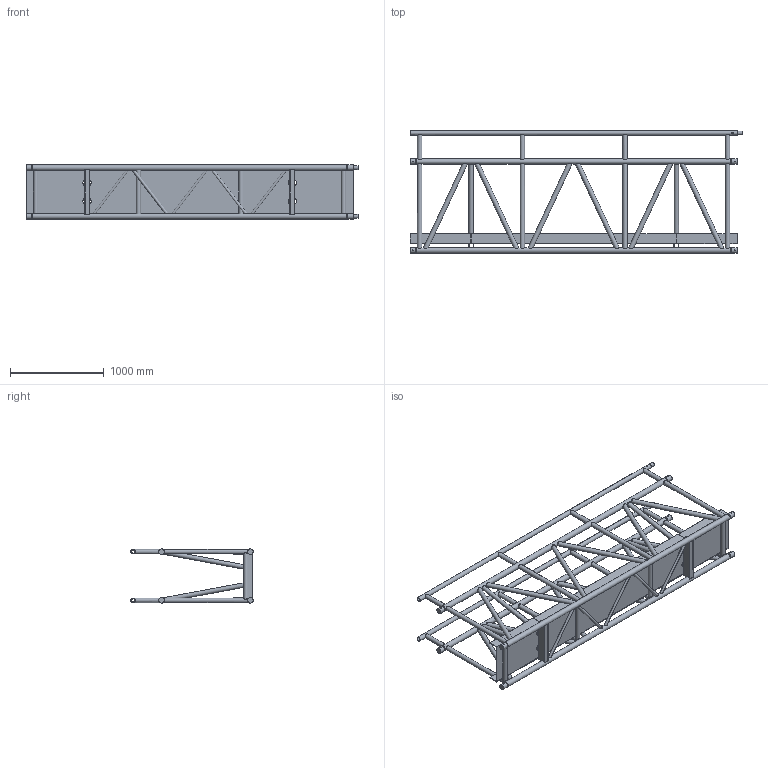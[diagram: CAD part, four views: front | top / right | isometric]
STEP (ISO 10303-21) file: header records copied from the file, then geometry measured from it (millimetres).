
FILE_DESCRIPTION(/* description */ (''),/* implementation_level */ '2;1');
FILE_NAME(/* name */ 'M:\Symbolen_NIEUW\STP\100-er truss\B100CW\B100CW-L350_111110004.stp',/* time_stamp */ '2017-12-06T14:27:21+01:00',/* author */ ('Kees'),/* organization */ (''),/* preprocessor_version */ 'ST-DEVELOPER v16.13',/* originating_system */ 'Autodesk Inventor 2018',/* authorisation */ '');
FILE_SCHEMA (('AUTOMOTIVE_DESIGN { 1 0 10303 214 3 1 1 }'));
Length unit declared in the file: millimetre
Products named in the file (1): 260100919
Bounding box: 3550 x 1309.15 x 580 mm (x, y, z)
Volume: 67148661.1 mm3; surface area: 17871180.3 mm2
Topology: 3 solids, 15 shells, 372 faces, 1492 edges, 972 vertices
Faces by surface type: plane 218, cylinder 146, cone 8
Full cylindrical faces by diameter (mm): 10 x8, 16 x4, 24 x5, 30 x5, 34 x2, 40 x2, 42.3 x38, 48.3 x38, 58.8 x8, 60 x4
Entity records: 21177 total; most frequent: CARTESIAN_POINT 9565, ORIENTED_EDGE 2248, DIRECTION 2038, EDGE_CURVE 1124, VERTEX_POINT 800, AXIS2_PLACEMENT_3D 773, EDGE_LOOP 686, LINE 492
